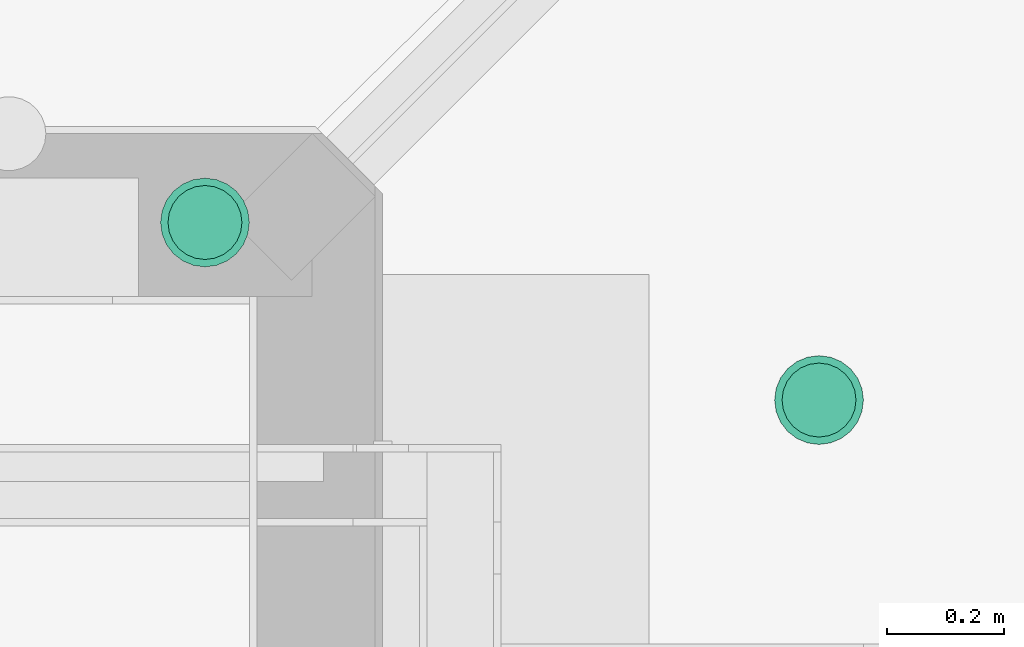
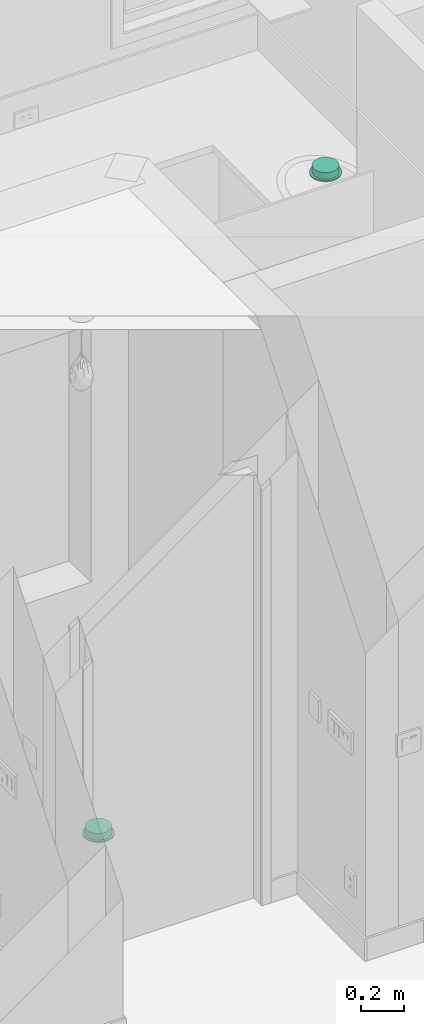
# One storey, part 45 of 81: 2 flow terminals.
"""IFC2X3 building model written with IfcOpenShell, lengths in feet."""

import ifcopenshell
import ifcopenshell.guid

model = None  # the IFC model being written
_history = None  # IfcOwnerHistory: only IFC2X3 demands one
_inside = {}  # id of a spatial element -> (the spatial element, [elements in it])
_under = {}  # id of a project, library or spatial element -> (it, [spatial elements below it])
_declared = {}  # id of a project -> (the project, [libraries it declares])
_typed = {}  # id of a type object -> (the type object, [elements of that type])
_made_of = {}  # id of a material, layer set ... -> (it, [elements and type objects made of it])


def new_model(schema):
    """Start an empty IFC model of exactly this schema.

    Asked for "IFC4X3", IfcOpenShell would pick the latest addendum, in which some entities
    have other attributes; the version numbers below select the first issue.
    IFC2X3 requires an IfcOwnerHistory on every rooted entity: one is made here for all.
    """
    global model, _history
    if schema == "IFC4X3":
        model = ifcopenshell.file(schema_version=(4, 3, 0, 0))
    else:
        model = ifcopenshell.file(schema=schema)
    _inside.clear()
    _under.clear()
    _declared.clear()
    _typed.clear()
    _made_of.clear()
    _history = None
    if model.schema == "IFC2X3":
        org = make("IfcOrganization", Name="unknown")
        user = make(
            "IfcPersonAndOrganization",
            ThePerson=make("IfcPerson", FamilyName="unknown"),
            TheOrganization=org,
        )
        app = make(
            "IfcApplication",
            ApplicationDeveloper=org,
            Version="unknown",
            ApplicationFullName="unknown",
            ApplicationIdentifier="unknown",
        )
        _history = make(
            "IfcOwnerHistory",
            OwningUser=user,
            OwningApplication=app,
            ChangeAction="ADDED",
            CreationDate=0,
        )
    return model


def make(cls, **values):
    """One entity of the class cls with the attributes given. An attribute that is None is left unset."""
    return model.create_entity(
        cls, **{name: value for name, value in values.items() if value is not None}
    )


def entity(cls, *values):
    """Any entity or typed value of the class cls, its attributes in the order of the schema. None: left unset."""
    e = model.create_entity(cls)
    for i, value in enumerate(values):
        if value is not None:
            e[i] = value
    return e


def rooted(cls, **values):
    """An entity with a GlobalId (a new one), such as an element, a storey or a relation."""
    return make(cls, GlobalId=ifcopenshell.guid.new(), OwnerHistory=_history, **values)


def si_unit(unit_type, name, prefix=None):
    """IfcSIUnit, for example si_unit("LENGTHUNIT", "METRE", prefix="MILLI")."""
    return make("IfcSIUnit", UnitType=unit_type, Prefix=prefix, Name=name)


def converted_unit(unit_type, name, factor, base, dimensions=None, offset=None):
    """IfcConversionBasedUnit, such as the inch: factor (a typed value) times the base unit."""
    return make(
        "IfcConversionBasedUnit"
        if offset is None
        else "IfcConversionBasedUnitWithOffset",
        ConversionOffset=offset,
        Dimensions=None
        if dimensions is None
        else entity("IfcDimensionalExponents", *dimensions),
        UnitType=unit_type,
        Name=name,
        ConversionFactor=make(
            "IfcMeasureWithUnit", ValueComponent=factor, UnitComponent=base
        ),
    )


def derived_unit(unit_type, elements):
    """IfcDerivedUnit: a product of units, each with its exponent."""
    return make(
        "IfcDerivedUnit",
        Elements=[
            make("IfcDerivedUnitElement", Unit=unit, Exponent=power)
            for unit, power in elements
        ],
        UnitType=unit_type,
    )


def assignment(units):
    """IfcUnitAssignment: the units of a project."""
    return None if units is None else make("IfcUnitAssignment", Units=units)


def point(xyz):
    """IfcCartesianPoint."""
    return None if xyz is None else make("IfcCartesianPoint", Coordinates=xyz)


def direction(xyz):
    """IfcDirection."""
    return None if xyz is None else make("IfcDirection", DirectionRatios=xyz)


def frame(location, z_axis=None, x_axis=None):
    """IfcAxis2Placement3D, a coordinate frame: its origin and axes. An axis left out is left unset."""
    return make(
        "IfcAxis2Placement3D",
        Location=point(location),
        Axis=direction(z_axis),
        RefDirection=direction(x_axis),
    )


def origin():
    """The frame at (0, 0, 0) with its axes left unset."""
    return frame((0.0, 0.0, 0.0))


def place(relative_to, where):
    """IfcLocalPlacement: puts the frame where relative to a parent placement (None: the world)."""
    return make(
        "IfcLocalPlacement", PlacementRelTo=relative_to, RelativePlacement=where
    )


def context(
    kind, dimensions, precision=None, world=None, true_north=None, identifier=None
):
    """IfcGeometricRepresentationContext, for example the 3D "Model" context."""
    return make(
        "IfcGeometricRepresentationContext",
        ContextIdentifier=identifier,
        ContextType=kind,
        CoordinateSpaceDimension=dimensions,
        Precision=precision,
        WorldCoordinateSystem=world,
        TrueNorth=true_north,
    )


def subcontext(parent, identifier, kind, view, scale=None):
    """IfcGeometricRepresentationSubContext, for example "Body" below "Model"."""
    return make(
        "IfcGeometricRepresentationSubContext",
        ContextIdentifier=identifier,
        ContextType=kind,
        ParentContext=parent,
        TargetScale=scale,
        TargetView=view,
    )


def project(units=None, contexts=None):
    """IfcProject with its units and contexts."""
    return rooted(
        "IfcProject",
        Name="project",
        RepresentationContexts=contexts,
        UnitsInContext=assignment(units),
    )


def spatial(cls, under=None, at=None, **own):
    """A site, building, storey or space (cls), placed at a placement, below another one or the project."""
    s = rooted(cls, ObjectPlacement=at, **own)
    if under is not None:
        _under.setdefault(under.id(), (under, []))[1].append(s)
    return s


def faces_of(points, faces, orient=None, outer=None):
    """IfcFace entities. A face is a list of loops; a loop is a list of indices into points, from 0.

    orient and outer hold one flag for each loop. By default every Orientation is true, the
    first loop of a face is its IfcFaceOuterBound and the others are IfcFaceBound.
    """
    made = []
    for i, loops in enumerate(faces):
        bounds = []
        for j, loop in enumerate(loops):
            is_outer = j == 0 if outer is None else outer[i][j]
            bounds.append(
                make(
                    "IfcFaceOuterBound" if is_outer else "IfcFaceBound",
                    Bound=make("IfcPolyLoop", Polygon=[points[k] for k in loop]),
                    Orientation=True if orient is None else orient[i][j],
                )
            )
        made.append(make("IfcFace", Bounds=bounds))
    return made


def faceted_brep(points, faces, orient=None, outer=None, voids=None):
    """IfcFacetedBrep: a solid bounded by flat faces; with voids (closed shells), ...WithVoids."""
    shared = [point(p) for p in points]
    hull = make("IfcClosedShell", CfsFaces=faces_of(shared, faces, orient, outer))
    if voids is None:
        return make("IfcFacetedBrep", Outer=hull)
    return make(
        "IfcFacetedBrepWithVoids",
        Outer=hull,
        Voids=[
            make(cls, CfsFaces=faces_of(shared, fs, o, b)) for cls, fs, o, b in voids
        ],
    )


def shape(context_of_items, identifier, shape_type, items):
    """IfcShapeRepresentation: the items that make up one representation, for example the "Body"."""
    return make(
        "IfcShapeRepresentation",
        ContextOfItems=context_of_items,
        RepresentationIdentifier=identifier,
        RepresentationType=shape_type,
        Items=items,
    )


def source(mapping_origin, context_of_items, identifier, shape_type, items):
    """IfcRepresentationMap: a shape defined once, which mapped items show again and again."""
    return make(
        "IfcRepresentationMap",
        MappingOrigin=mapping_origin,
        MappedRepresentation=shape(context_of_items, identifier, shape_type, items),
    )


def transform(
    local_origin,
    x_axis=None,
    y_axis=None,
    z_axis=None,
    scale=None,
    scale2=None,
    scale3=None,
    uniform=True,
):
    """IfcCartesianTransformationOperator3D, or its non-uniform kind. x_axis, y_axis, z_axis: its Axis1, 2, 3."""
    if uniform:
        return make(
            "IfcCartesianTransformationOperator3D",
            Axis1=direction(x_axis),
            Axis2=direction(y_axis),
            LocalOrigin=point(local_origin),
            Scale=scale,
            Axis3=direction(z_axis),
        )
    return make(
        "IfcCartesianTransformationOperator3DnonUniform",
        Axis1=direction(x_axis),
        Axis2=direction(y_axis),
        LocalOrigin=point(local_origin),
        Scale=scale,
        Axis3=direction(z_axis),
        Scale2=scale2,
        Scale3=scale3,
    )


def mapped(mapping_source, mapping_target):
    """IfcMappedItem: shows the shape of a source again, moved by a transform."""
    return make(
        "IfcMappedItem", MappingSource=mapping_source, MappingTarget=mapping_target
    )


def material(Name=None, Category=None):
    """IfcMaterial."""
    return make("IfcMaterial", Name=Name, Category=Category)


def material_list(materials):
    """IfcMaterialList."""
    return make("IfcMaterialList", Materials=materials)


def made_of(thing, what):
    """Note that an element or type object is made of a material, layer set ...; save() writes the relation."""
    if what is not None:
        _made_of.setdefault(what.id(), (what, []))[1].append(thing)
    return thing


def type_object(cls, material=None, **own):
    """A type object (cls), such as IfcWallType, which elements share."""
    return made_of(rooted(cls, **own), material)


def type_shapes(of_type, sources):
    """Give a type object the sources (RepresentationMaps) that its elements show as mapped items."""
    of_type.RepresentationMaps = sources


def element(
    cls,
    number,
    at=None,
    inside=None,
    cuts=None,
    type_object=None,
    material=None,
    context=None,
    identifier="Body",
    shape_type=None,
    held_by="IfcProductDefinitionShape",
    body=None,
    shapes=None,
    **own,
):
    """One element of the class cls, such as IfcWall. Its Tag is "e" and its number.

    at: its placement. inside: the storey or other place that contains it. cuts: it is an
    opening in that element (IfcRelVoidsElement). A single representation is given by context,
    identifier, shape_type and body (its items); several are given by shapes. held_by: the class
    of the entity that holds the representations. save() writes the other relations.
    """
    e = rooted(cls, Tag="e%d" % number, ObjectPlacement=at, **own)
    if body is not None:
        shapes = [shape(context, identifier, shape_type, body)]
    if shapes is not None:
        e.Representation = make(held_by, Representations=shapes)
    if inside is not None:
        _inside.setdefault(inside.id(), (inside, []))[1].append(e)
    if cuts is not None:
        rooted(
            "IfcRelVoidsElement", RelatingBuildingElement=cuts, RelatedOpeningElement=e
        )
    if type_object is not None:
        _typed.setdefault(type_object.id(), (type_object, []))[1].append(e)
    return made_of(e, material)


def aggregate(whole, parts):
    """IfcRelAggregates: a whole, such as a stair, and the parts it consists of."""
    return rooted("IfcRelAggregates", RelatingObject=whole, RelatedObjects=parts)


def save(model, path):
    """Write the relations noted so far, then the file.

    IfcRelAggregates (storeys below a building ...), IfcRelContainedInSpatialStructure (elements
    in a storey), IfcRelDefinesByType, IfcRelAssociatesMaterial and IfcRelDeclares: one each for
    every whole, place, type object, material and project.
    """
    for whole, parts in _under.values():
        aggregate(whole, parts)
    for where, things in _inside.values():
        rooted(
            "IfcRelContainedInSpatialStructure",
            RelatedElements=things,
            RelatingStructure=where,
        )
    for kind, things in _typed.values():
        rooted("IfcRelDefinesByType", RelatedObjects=things, RelatingType=kind)
    for what, things in _made_of.values():
        rooted("IfcRelAssociatesMaterial", RelatedObjects=things, RelatingMaterial=what)
    for by, libraries in _declared.values():
        rooted("IfcRelDeclares", RelatingContext=by, RelatedDefinitions=libraries)
    model.write(path)


model = new_model("IFC2X3")

# Units and contexts
model_context = context("Model", 3, precision=0.0001, world=origin(), true_north=direction((6.12303176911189e-17, 1.0)))
body_context = subcontext(model_context, "Body", "Model", "MODEL_VIEW")
ifc_project = project(units=[converted_unit("LENGTHUNIT", "FOOT", entity("IfcRatioMeasure", 0.3048), si_unit("LENGTHUNIT", "METRE"), dimensions=[1, 0, 0, 0, 0, 0, 0]), converted_unit("AREAUNIT", "SQUARE FOOT", entity("IfcRatioMeasure", 0.09290304), si_unit("AREAUNIT", "SQUARE_METRE"), dimensions=[2, 0, 0, 0, 0, 0, 0]), converted_unit("VOLUMEUNIT", "CUBIC FOOT", entity("IfcRatioMeasure", 0.028316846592), si_unit("VOLUMEUNIT", "CUBIC_METRE"), dimensions=[3, 0, 0, 0, 0, 0, 0]), converted_unit("PLANEANGLEUNIT", "DEGREE", entity("IfcRatioMeasure", 0.0174532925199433), si_unit("PLANEANGLEUNIT", "RADIAN"), dimensions=[0, 0, 0, 0, 0, 0, 0]), si_unit("MASSUNIT", "GRAM", prefix="KILO"), derived_unit("MASSDENSITYUNIT", [(si_unit("MASSUNIT", "GRAM", prefix="KILO"), 1), (si_unit("LENGTHUNIT", "METRE"), -3)]), derived_unit("MOMENTOFINERTIAUNIT", [(si_unit("LENGTHUNIT", "METRE"), 4)]), si_unit("TIMEUNIT", "SECOND"), si_unit("FREQUENCYUNIT", "HERTZ"), si_unit("THERMODYNAMICTEMPERATUREUNIT", "DEGREE_CELSIUS"), derived_unit("THERMALTRANSMITTANCEUNIT", [(si_unit("MASSUNIT", "GRAM", prefix="KILO"), 1), (si_unit("THERMODYNAMICTEMPERATUREUNIT", "KELVIN"), -1), (si_unit("TIMEUNIT", "SECOND"), -3)]), derived_unit("VOLUMETRICFLOWRATEUNIT", [(si_unit("LENGTHUNIT", "METRE"), 3), (si_unit("TIMEUNIT", "SECOND"), -1)]), si_unit("ELECTRICCURRENTUNIT", "AMPERE"), si_unit("ELECTRICVOLTAGEUNIT", "VOLT"), si_unit("POWERUNIT", "WATT"), si_unit("FORCEUNIT", "NEWTON"), si_unit("ILLUMINANCEUNIT", "LUX"), si_unit("LUMINOUSFLUXUNIT", "LUMEN"), si_unit("LUMINOUSINTENSITYUNIT", "CANDELA"), derived_unit("USERDEFINED", [(si_unit("MASSUNIT", "GRAM", prefix="KILO"), -1), (si_unit("LENGTHUNIT", "METRE"), -2), (si_unit("TIMEUNIT", "SECOND"), 3), (si_unit("LUMINOUSFLUXUNIT", "LUMEN"), 1)]), derived_unit("LINEARVELOCITYUNIT", [(si_unit("LENGTHUNIT", "METRE"), 1), (si_unit("TIMEUNIT", "SECOND"), -1)]), si_unit("PRESSUREUNIT", "PASCAL"), derived_unit("USERDEFINED", [(si_unit("LENGTHUNIT", "METRE"), -2), (si_unit("MASSUNIT", "GRAM", prefix="KILO"), 1), (si_unit("TIMEUNIT", "SECOND"), -2)]), derived_unit("LINEARFORCEUNIT", [(si_unit("MASSUNIT", "GRAM", prefix="KILO"), 1), (si_unit("LENGTHUNIT", "METRE"), 1), (si_unit("TIMEUNIT", "SECOND"), -2), (si_unit("LENGTHUNIT", "METRE"), -1)]), derived_unit("PLANARFORCEUNIT", [(si_unit("MASSUNIT", "GRAM", prefix="KILO"), 1), (si_unit("LENGTHUNIT", "METRE"), 1), (si_unit("TIMEUNIT", "SECOND"), -2), (si_unit("LENGTHUNIT", "METRE"), -2)])], contexts=[model_context])

# Site, building, storey
site_placement = place(None, origin())
site = spatial("IfcSite", under=ifc_project, at=site_placement, Name="Default", CompositionType="ELEMENT")
building_placement = place(site_placement, origin())
building = spatial("IfcBuilding", under=site, at=building_placement, CompositionType="ELEMENT")
storey_placement = place(building_placement, origin())
storey = spatial("IfcBuildingStorey", under=building, at=storey_placement, Name="First floor", CompositionType="ELEMENT", Elevation=0.0)

# Flow terminals
ifc_material_1 = material(Name="Default New Material")
ifc_material_2 = material(Name="Glass, White, High Luminance")
ifc_material_list_1 = material_list([ifc_material_1, ifc_material_2])
ifc_material_list_2 = material_list([ifc_material_1, ifc_material_2])
light_fixture_type = type_object("IfcLightFixtureType", Name="M_Recessed Lamp - Round - LED:Light 2", PredefinedType="NOTDEFINED", material=ifc_material_list_2)
shared_shape = source(origin(), body_context, "Body", "Brep", [
    faceted_brep([(-0.124999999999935, 0.216506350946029, 0.0208333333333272), (-0.176776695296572, 0.176776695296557, 0.0208333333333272), (-0.0833333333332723, 0.144337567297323, 0.0208333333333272), (-0.0431365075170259, 0.160987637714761, 0.0208333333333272), (-0.0647047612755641, 0.241481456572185, 0.0208333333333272), (-0.117851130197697, 0.117851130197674, 0.0208333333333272), (-0.216506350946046, 0.12499999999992, 0.0208333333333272), (-0.144337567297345, 0.0833333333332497, 0.0208333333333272), (-0.160987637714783, 0.0431365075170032, 0.0208333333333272), (-0.241481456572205, 0.0647047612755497, 0.0208333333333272), (-0.166666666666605, 0.0, 0.0208333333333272), (-0.249999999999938, 0.0, 0.0208333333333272), (-0.160987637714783, -0.0431365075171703, 0.0208333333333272), (-0.241481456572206, -0.0647047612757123, 0.0208333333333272), (-0.144337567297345, -0.0833333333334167, 0.0208333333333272), (-0.216506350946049, -0.125000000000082, 0.0208333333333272), (-0.117851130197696, -0.117851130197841, 0.0208333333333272), (-0.176776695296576, -0.176776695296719, 0.0208333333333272), (-0.0833333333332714, -0.14433756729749, 0.0208333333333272), (-0.12499999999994, -0.216506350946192, 0.0208333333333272), (-0.0431365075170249, -0.160987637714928, 0.0208333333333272), (-0.0647047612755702, -0.24148145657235, 0.0208333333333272), (0.0, -0.16666666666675, 0.0208333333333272), (0.0, -0.250000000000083, 0.0208333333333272), (0.0431365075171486, -0.160987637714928, 0.0208333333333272), (0.0647047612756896, -0.241481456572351, 0.0208333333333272), (0.0833333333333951, -0.144337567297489, 0.0208333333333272), (0.12500000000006, -0.216506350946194, 0.0208333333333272), (0.11785113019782, -0.117851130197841, 0.0208333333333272), (0.176776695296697, -0.176776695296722, 0.0208333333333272), (0.144337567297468, -0.0833333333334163, 0.0208333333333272), (0.21650635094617, -0.125000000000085, 0.0208333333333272), (0.241481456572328, -0.0647047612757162, 0.0208333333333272), (0.160987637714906, -0.0431365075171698, 0.0208333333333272), (0.250000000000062, 0.0, 0.0208333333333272), (0.166666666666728, 0.0, 0.0208333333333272), (0.241481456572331, 0.06470476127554, 0.0208333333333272), (0.160987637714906, 0.0431365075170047, 0.0208333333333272), (0.216506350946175, 0.124999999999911, 0.0208333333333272), (0.144337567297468, 0.0833333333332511, 0.0208333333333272), (0.176776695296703, 0.176776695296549, 0.0208333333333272), (0.117851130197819, 0.117851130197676, 0.0208333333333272), (0.125000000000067, 0.216506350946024, 0.0208333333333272), (0.0833333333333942, 0.144337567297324, 0.0208333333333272), (0.0647047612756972, 0.241481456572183, 0.0208333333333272), (0.0431365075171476, 0.160987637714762, 0.0208333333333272), (0.0, 0.249999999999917, 0.0208333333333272), (0.0, 0.166666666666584, 0.0208333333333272), (-0.12499999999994, -0.216506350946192, 0.0), (-0.176776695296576, -0.176776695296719, 0.0), (-0.0833333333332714, -0.14433756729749, 0.0), (-0.0431365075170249, -0.160987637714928, 0.0), (-0.0647047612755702, -0.24148145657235, 0.0), (-0.117851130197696, -0.117851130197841, 0.0), (-0.216506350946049, -0.125000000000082, 0.0), (-0.144337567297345, -0.0833333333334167, 0.0), (-0.160987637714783, -0.0431365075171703, 0.0), (-0.241481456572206, -0.0647047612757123, 0.0), (-0.166666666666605, 0.0, 0.0), (-0.249999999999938, 0.0, 0.0), (-0.160987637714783, 0.0431365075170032, 0.0), (-0.241481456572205, 0.0647047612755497, 0.0), (-0.144337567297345, 0.0833333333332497, 0.0), (-0.216506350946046, 0.12499999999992, 0.0), (-0.117851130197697, 0.117851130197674, 0.0), (-0.176776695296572, 0.176776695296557, 0.0), (-0.0833333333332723, 0.144337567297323, 0.0), (-0.124999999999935, 0.216506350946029, 0.0), (-0.0431365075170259, 0.160987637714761, 0.0), (-0.0647047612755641, 0.241481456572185, 0.0), (0.0, 0.166666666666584, 0.0), (0.0, 0.249999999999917, 0.0), (0.0431365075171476, 0.160987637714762, 0.0), (0.0647047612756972, 0.241481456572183, 0.0), (0.0833333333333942, 0.144337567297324, 0.0), (0.125000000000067, 0.216506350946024, 0.0), (0.117851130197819, 0.117851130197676, 0.0), (0.176776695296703, 0.176776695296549, 0.0), (0.144337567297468, 0.0833333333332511, 0.0), (0.216506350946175, 0.124999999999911, 0.0), (0.241481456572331, 0.06470476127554, 0.0), (0.160987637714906, 0.0431365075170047, 0.0), (0.250000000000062, 0.0, 0.0), (0.166666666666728, 0.0, 0.0), (0.241481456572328, -0.0647047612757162, 0.0), (0.160987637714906, -0.0431365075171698, 0.0), (0.21650635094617, -0.125000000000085, 0.0), (0.144337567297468, -0.0833333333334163, 0.0), (0.176776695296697, -0.176776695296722, 0.0), (0.11785113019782, -0.117851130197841, 0.0), (0.12500000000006, -0.216506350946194, 0.0), (0.0833333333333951, -0.144337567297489, 0.0), (0.0647047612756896, -0.241481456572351, 0.0), (0.0431365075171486, -0.160987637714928, 0.0), (0.0, -0.250000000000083, 0.0), (0.0, -0.16666666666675, 0.0)], [[[0, 1, 2]], [[0, 2, 3]], [[3, 4, 0]], [[2, 1, 5]], [[6, 5, 1]], [[7, 5, 6]], [[8, 7, 6]], [[8, 6, 9]], [[8, 9, 10]], [[10, 9, 11]], [[12, 10, 11]], [[12, 11, 13]], [[14, 12, 13]], [[14, 13, 15]], [[16, 14, 15]], [[15, 17, 16]], [[17, 18, 16]], [[18, 17, 19]], [[18, 19, 20]], [[21, 20, 19]], [[20, 21, 22]], [[22, 21, 23]], [[23, 24, 22]], [[24, 23, 25]], [[24, 25, 26]], [[27, 26, 25]], [[27, 28, 26]], [[27, 29, 28]], [[30, 28, 29]], [[31, 30, 29]], [[32, 30, 31]], [[33, 30, 32]], [[33, 32, 34]], [[34, 35, 33]], [[36, 35, 34]], [[36, 37, 35]], [[37, 36, 38]], [[39, 37, 38]], [[39, 38, 40]], [[39, 40, 41]], [[40, 42, 41]], [[41, 42, 43]], [[43, 42, 44]], [[44, 45, 43]], [[46, 45, 44]], [[4, 47, 46]], [[45, 46, 47]], [[4, 3, 47]], [[48, 49, 50]], [[48, 50, 51]], [[51, 52, 48]], [[50, 49, 53]], [[54, 53, 49]], [[55, 53, 54]], [[56, 55, 54]], [[56, 54, 57]], [[56, 57, 58]], [[58, 57, 59]], [[60, 58, 59]], [[60, 59, 61]], [[62, 60, 61]], [[62, 61, 63]], [[64, 62, 63]], [[63, 65, 64]], [[65, 66, 64]], [[66, 65, 67]], [[66, 67, 68]], [[69, 68, 67]], [[68, 69, 70]], [[70, 69, 71]], [[71, 72, 70]], [[72, 71, 73]], [[72, 73, 74]], [[75, 74, 73]], [[75, 76, 74]], [[75, 77, 76]], [[78, 76, 77]], [[79, 78, 77]], [[80, 78, 79]], [[81, 78, 80]], [[81, 80, 82]], [[82, 83, 81]], [[84, 83, 82]], [[84, 85, 83]], [[85, 84, 86]], [[87, 85, 86]], [[87, 86, 88]], [[87, 88, 89]], [[88, 90, 89]], [[89, 90, 91]], [[91, 90, 92]], [[92, 93, 91]], [[94, 93, 92]], [[52, 95, 94]], [[93, 94, 95]], [[52, 51, 95]], [[10, 58, 60, 8]], [[8, 60, 62, 7]], [[2, 5, 64, 66]], [[62, 64, 5, 7]], [[3, 2, 66, 68]], [[70, 47, 3, 68]], [[45, 72, 74, 43]], [[43, 74, 76, 41]], [[37, 39, 78, 81]], [[76, 78, 39, 41]], [[35, 37, 81, 83]], [[45, 47, 70, 72]], [[35, 83, 85, 33]], [[33, 85, 87, 30]], [[26, 28, 89, 91]], [[87, 89, 28, 30]], [[24, 26, 91, 93]], [[95, 22, 24, 93]], [[20, 51, 50, 18]], [[18, 50, 53, 16]], [[12, 14, 55, 56]], [[53, 55, 14, 16]], [[10, 12, 56, 58]], [[20, 22, 95, 51]], [[57, 13, 11, 59]], [[54, 15, 13, 57]], [[19, 17, 49, 48]], [[54, 49, 17, 15]], [[21, 19, 48, 52]], [[23, 21, 52, 94]], [[92, 25, 23, 94]], [[90, 27, 25, 92]], [[31, 29, 88, 86]], [[90, 88, 29, 27]], [[32, 31, 86, 84]], [[34, 32, 84, 82]], [[80, 36, 34, 82]], [[79, 38, 36, 80]], [[42, 40, 77, 75]], [[79, 77, 40, 38]], [[44, 42, 75, 73]], [[46, 44, 73, 71]], [[69, 4, 46, 71]], [[67, 0, 4, 69]], [[6, 1, 65, 63]], [[67, 65, 1, 0]], [[9, 6, 63, 61]], [[11, 9, 61, 59]]]),
    faceted_brep([(0.0431365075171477, -0.160987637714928, 0.0208333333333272), (0.0833333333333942, -0.14433756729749, 0.0208333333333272), (0.117851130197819, -0.117851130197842, 0.0208333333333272), (0.144337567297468, -0.0833333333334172, 0.0208333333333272), (0.160987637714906, -0.0431365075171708, 0.0208333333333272), (0.166666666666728, 0.0, 0.0208333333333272), (0.160987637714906, 0.0431365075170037, 0.0208333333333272), (0.144337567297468, 0.0833333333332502, 0.0208333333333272), (0.11785113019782, 0.117851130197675, 0.0208333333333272), (0.0833333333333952, 0.144337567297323, 0.0208333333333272), (0.0431365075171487, 0.160987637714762, 0.0208333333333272), (0.0, 0.166666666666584, 0.0208333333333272), (-0.0431365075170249, 0.160987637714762, 0.0208333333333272), (-0.0833333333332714, 0.144337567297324, 0.0208333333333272), (-0.117851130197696, 0.117851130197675, 0.0208333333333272), (-0.144337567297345, 0.0833333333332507, 0.0208333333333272), (-0.160987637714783, 0.0431365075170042, 0.0208333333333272), (-0.166666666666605, 0.0, 0.0208333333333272), (-0.160987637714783, -0.0431365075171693, 0.0208333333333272), (-0.144337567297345, -0.0833333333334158, 0.0208333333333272), (-0.117851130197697, -0.117851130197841, 0.0208333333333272), (-0.0833333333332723, -0.144337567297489, 0.0208333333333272), (-0.0431365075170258, -0.160987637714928, 0.0208333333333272), (0.0, -0.16666666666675, 0.0208333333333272), (0.0431365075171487, 0.160987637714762, 0.0), (0.0833333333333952, 0.144337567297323, 0.0), (0.11785113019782, 0.117851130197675, 0.0), (0.144337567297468, 0.0833333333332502, 0.0), (0.160987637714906, 0.0431365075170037, 0.0), (0.166666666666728, 0.0, 0.0), (0.160987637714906, -0.0431365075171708, 0.0), (0.144337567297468, -0.0833333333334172, 0.0), (0.117851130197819, -0.117851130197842, 0.0), (0.0833333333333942, -0.14433756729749, 0.0), (0.0431365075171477, -0.160987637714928, 0.0), (0.0, -0.16666666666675, 0.0), (-0.0431365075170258, -0.160987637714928, 0.0), (-0.0833333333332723, -0.144337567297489, 0.0), (-0.117851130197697, -0.117851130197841, 0.0), (-0.144337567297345, -0.0833333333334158, 0.0), (-0.160987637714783, -0.0431365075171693, 0.0), (-0.166666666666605, 0.0, 0.0), (-0.160987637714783, 0.0431365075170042, 0.0), (-0.144337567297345, 0.0833333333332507, 0.0), (-0.117851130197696, 0.117851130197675, 0.0), (-0.0833333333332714, 0.144337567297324, 0.0), (-0.0431365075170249, 0.160987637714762, 0.0), (0.0, 0.166666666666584, 0.0)], [[[0, 1, 2, 3, 4, 5, 6, 7, 8, 9, 10, 11, 12, 13, 14, 15, 16, 17, 18, 19, 20, 21, 22, 23]], [[24, 25, 26, 27, 28, 29, 30, 31, 32, 33, 34, 35, 36, 37, 38, 39, 40, 41, 42, 43, 44, 45, 46, 47]], [[40, 18, 17, 41]], [[39, 19, 18, 40]], [[21, 20, 38, 37]], [[39, 38, 20, 19]], [[22, 21, 37, 36]], [[23, 22, 36, 35]], [[34, 0, 23, 35]], [[33, 1, 0, 34]], [[3, 2, 32, 31]], [[33, 32, 2, 1]], [[4, 3, 31, 30]], [[5, 4, 30, 29]], [[28, 6, 5, 29]], [[27, 7, 6, 28]], [[9, 8, 26, 25]], [[27, 26, 8, 7]], [[10, 9, 25, 24]], [[11, 10, 24, 47]], [[46, 12, 11, 47]], [[45, 13, 12, 46]], [[15, 14, 44, 43]], [[45, 44, 14, 13]], [[16, 15, 43, 42]], [[17, 16, 42, 41]]]),
    faceted_brep([(0.0, -0.16666666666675, -0.104166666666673), (0.0431365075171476, -0.160987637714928, -0.104166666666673), (0.0833333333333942, -0.14433756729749, -0.104166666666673), (0.117851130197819, -0.117851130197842, -0.104166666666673), (0.144337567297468, -0.0833333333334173, -0.104166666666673), (0.160987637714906, -0.0431365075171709, -0.104166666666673), (0.166666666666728, 0.0, -0.104166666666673), (0.160987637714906, 0.0431365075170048, -0.104166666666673), (0.144337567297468, 0.0833333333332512, -0.104166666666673), (0.117851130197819, 0.117851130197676, -0.104166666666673), (0.0833333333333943, 0.144337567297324, -0.104166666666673), (0.0431365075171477, 0.160987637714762, -0.104166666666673), (0.0, 0.166666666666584, -0.104166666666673), (-0.0431365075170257, 0.160987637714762, -0.104166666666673), (-0.0833333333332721, 0.144337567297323, -0.104166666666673), (-0.117851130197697, 0.117851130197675, -0.104166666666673), (-0.144337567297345, 0.0833333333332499, -0.104166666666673), (-0.160987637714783, 0.0431365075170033, -0.104166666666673), (-0.166666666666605, 0.0, -0.104166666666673), (-0.160987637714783, -0.0431365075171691, -0.104166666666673), (-0.144337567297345, -0.0833333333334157, -0.104166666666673), (-0.117851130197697, -0.11785113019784, -0.104166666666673), (-0.0833333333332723, -0.144337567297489, -0.104166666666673), (-0.0431365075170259, -0.160987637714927, -0.104166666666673), (0.0, 0.20833333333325, -0.125000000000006), (0.0539206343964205, 0.201234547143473, -0.125000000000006), (0.104166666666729, 0.180421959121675, -0.125000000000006), (0.147313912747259, 0.147313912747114, -0.125000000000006), (0.18042195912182, 0.104166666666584, -0.125000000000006), (0.201234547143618, 0.0539206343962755, -0.125000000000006), (0.208333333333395, 0.0, -0.125000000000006), (0.201234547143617, -0.0539206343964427, -0.125000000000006), (0.180421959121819, -0.104166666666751, -0.125000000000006), (0.147313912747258, -0.147313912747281, -0.125000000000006), (0.104166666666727, -0.180421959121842, -0.125000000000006), (0.0539206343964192, -0.201234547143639, -0.125000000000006), (0.0, -0.208333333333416, -0.125000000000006), (-0.0539206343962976, -0.201234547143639, -0.125000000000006), (-0.104166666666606, -0.180421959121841, -0.125000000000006), (-0.147313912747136, -0.14731391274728, -0.125000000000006), (-0.180421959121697, -0.104166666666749, -0.125000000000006), (-0.201234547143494, -0.0539206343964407, -0.125000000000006), (-0.208333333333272, 0.0, -0.125000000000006), (-0.201234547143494, 0.0539206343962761, -0.125000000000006), (-0.180421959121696, 0.104166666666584, -0.125000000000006), (-0.147313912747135, 0.147313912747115, -0.125000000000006), (-0.104166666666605, 0.180421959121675, -0.125000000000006), (-0.0539206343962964, 0.201234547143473, -0.125000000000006), (-0.201234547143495, -0.0539206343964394, -0.104166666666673), (-0.201234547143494, -0.0539206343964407, 0.0), (-0.208333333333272, 0.0, 0.0), (-0.208333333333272, 0.0, -0.104166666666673), (-0.180421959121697, -0.104166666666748, -0.104166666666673), (-0.180421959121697, -0.104166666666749, 0.0), (-0.104166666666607, -0.18042195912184, -0.104166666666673), (-0.104166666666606, -0.180421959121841, 0.0), (-0.147313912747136, -0.14731391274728, 0.0), (-0.147313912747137, -0.147313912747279, -0.104166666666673), (-0.0539206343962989, -0.201234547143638, -0.104166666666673), (-0.0539206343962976, -0.201234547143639, 0.0), (0.0, -0.208333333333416, -0.104166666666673), (0.0, -0.208333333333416, 0.0), (0.053920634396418, -0.201234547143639, -0.104166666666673), (0.0539206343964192, -0.201234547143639, 0.0), (0.104166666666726, -0.180421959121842, -0.104166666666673), (0.104166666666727, -0.180421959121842, 0.0), (0.180421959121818, -0.104166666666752, -0.104166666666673), (0.180421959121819, -0.104166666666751, 0.0), (0.147313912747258, -0.147313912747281, 0.0), (0.147313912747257, -0.147313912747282, -0.104166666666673), (0.201234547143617, -0.0539206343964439, -0.104166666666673), (0.201234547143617, -0.0539206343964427, 0.0), (0.208333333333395, 0.0, -0.104166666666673), (0.208333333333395, 0.0, 0.0), (0.201234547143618, 0.0539206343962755, -0.104166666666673), (0.201234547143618, 0.0539206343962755, 0.0), (0.18042195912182, 0.104166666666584, -0.104166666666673), (0.18042195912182, 0.104166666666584, 0.0), (0.104166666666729, 0.180421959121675, -0.104166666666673), (0.104166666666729, 0.180421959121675, 0.0), (0.147313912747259, 0.147313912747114, 0.0), (0.147313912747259, 0.147313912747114, -0.104166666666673), (0.0539206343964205, 0.201234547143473, -0.104166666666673), (0.0539206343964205, 0.201234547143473, 0.0), (0.0, 0.20833333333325, -0.104166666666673), (0.0, 0.20833333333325, 0.0), (-0.0539206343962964, 0.201234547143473, -0.104166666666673), (-0.0539206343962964, 0.201234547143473, 0.0), (-0.104166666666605, 0.180421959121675, -0.104166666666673), (-0.104166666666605, 0.180421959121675, 0.0), (-0.180421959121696, 0.104166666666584, -0.104166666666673), (-0.180421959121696, 0.104166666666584, 0.0), (-0.147313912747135, 0.147313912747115, 0.0), (-0.147313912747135, 0.147313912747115, -0.104166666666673), (-0.201234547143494, 0.0539206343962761, -0.104166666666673), (-0.201234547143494, 0.0539206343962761, 0.0), (-0.0833333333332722, 0.144337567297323, 0.0), (-0.0431365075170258, 0.160987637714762, 0.0), (-0.117851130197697, 0.117851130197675, 0.0), (-0.144337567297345, 0.0833333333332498, 0.0), (-0.160987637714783, 0.0431365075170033, 0.0), (-0.166666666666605, 0.0, 0.0), (-0.160987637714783, -0.0431365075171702, 0.0), (-0.144337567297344, -0.0833333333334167, 0.0), (-0.117851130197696, -0.117851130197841, 0.0), (-0.0833333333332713, -0.14433756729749, 0.0), (-0.0431365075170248, -0.160987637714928, 0.0), (0.0, -0.16666666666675, 0.0), (0.0431365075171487, -0.160987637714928, 0.0), (0.0833333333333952, -0.144337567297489, 0.0), (0.11785113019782, -0.117851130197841, 0.0), (0.144337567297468, -0.0833333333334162, 0.0), (0.160987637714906, -0.0431365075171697, 0.0), (0.166666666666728, 0.0, 0.0), (0.160987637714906, 0.0431365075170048, 0.0), (0.144337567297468, 0.0833333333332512, 0.0), (0.117851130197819, 0.117851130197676, 0.0), (0.0833333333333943, 0.144337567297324, 0.0), (0.0431365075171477, 0.160987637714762, 0.0), (0.0, 0.166666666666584, 0.0)], [[[0, 1, 2, 3, 4, 5, 6, 7, 8, 9, 10, 11, 12, 13, 14, 15, 16, 17, 18, 19, 20, 21, 22, 23]], [[24, 25, 26, 27, 28, 29, 30, 31, 32, 33, 34, 35, 36, 37, 38, 39, 40, 41, 42, 43, 44, 45, 46, 47]], [[41, 48, 49, 50, 51, 42]], [[40, 52, 53, 49, 48, 41]], [[54, 55, 56, 57, 39, 38]], [[40, 39, 57, 56, 53, 52]], [[58, 59, 55, 54, 38, 37]], [[60, 61, 59, 58, 37, 36]], [[35, 62, 63, 61, 60, 36]], [[34, 64, 65, 63, 62, 35]], [[66, 67, 68, 69, 33, 32]], [[34, 33, 69, 68, 65, 64]], [[70, 71, 67, 66, 32, 31]], [[72, 73, 71, 70, 31, 30]], [[29, 74, 75, 73, 72, 30]], [[28, 76, 77, 75, 74, 29]], [[78, 79, 80, 81, 27, 26]], [[28, 27, 81, 80, 77, 76]], [[82, 83, 79, 78, 26, 25]], [[84, 85, 83, 82, 25, 24]], [[47, 86, 87, 85, 84, 24]], [[46, 88, 89, 87, 86, 47]], [[90, 91, 92, 93, 45, 44]], [[46, 45, 93, 92, 89, 88]], [[94, 95, 91, 90, 44, 43]], [[51, 50, 95, 94, 43, 42]], [[89, 92, 96]], [[89, 96, 97]], [[97, 87, 89]], [[96, 92, 98]], [[91, 98, 92]], [[99, 98, 91]], [[100, 99, 91]], [[100, 91, 95]], [[100, 95, 101]], [[101, 95, 50]], [[102, 101, 50]], [[102, 50, 49]], [[103, 102, 49]], [[103, 49, 53]], [[104, 103, 53]], [[53, 56, 104]], [[56, 105, 104]], [[105, 56, 55]], [[105, 55, 106]], [[59, 106, 55]], [[106, 59, 107]], [[107, 59, 61]], [[61, 108, 107]], [[108, 61, 63]], [[108, 63, 109]], [[65, 109, 63]], [[65, 110, 109]], [[65, 68, 110]], [[111, 110, 68]], [[67, 111, 68]], [[71, 111, 67]], [[112, 111, 71]], [[112, 71, 73]], [[73, 113, 112]], [[75, 113, 73]], [[75, 114, 113]], [[114, 75, 77]], [[115, 114, 77]], [[115, 77, 80]], [[115, 80, 116]], [[80, 79, 116]], [[116, 79, 117]], [[117, 79, 83]], [[83, 118, 117]], [[85, 118, 83]], [[87, 119, 85]], [[85, 119, 118]], [[87, 97, 119]], [[113, 6, 5, 112]], [[112, 5, 4, 111]], [[109, 110, 3, 2]], [[4, 3, 110, 111]], [[108, 109, 2, 1]], [[0, 107, 108, 1]], [[104, 105, 22, 21]], [[23, 22, 105, 106]], [[102, 103, 20, 19]], [[104, 21, 20, 103]], [[102, 19, 18, 101]], [[0, 23, 106, 107]], [[101, 18, 17, 100]], [[100, 17, 16, 99]], [[96, 98, 15, 14]], [[16, 15, 98, 99]], [[97, 96, 14, 13]], [[12, 119, 97, 13]], [[118, 11, 10, 117]], [[117, 10, 9, 116]], [[114, 115, 8, 7]], [[9, 8, 115, 116]], [[113, 114, 7, 6]], [[118, 119, 12, 11]]]),
])
type_shapes(light_fixture_type, [shared_shape])
flow_terminal_1_placement = place(storey_placement, frame((-1.58333333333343, 36.8333333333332, 8.41666666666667), z_axis=(0.0, 0.0, -1.0), x_axis=(1.0, 0.0, 0.0)))
element("IfcFlowTerminal", 1, at=flow_terminal_1_placement, inside=storey, type_object=light_fixture_type, material=ifc_material_list_1, Name="M_Recessed Lamp - Round - LED:Light 2", ObjectType="M_Recessed Lamp - Round - LED:Light 2", context=body_context, shape_type="MappedRepresentation", body=[
    mapped(shared_shape, transform((0.0, 0.0, 0.0), scale=1.0)),
])
ifc_material_list_3 = material_list([ifc_material_1, ifc_material_2])
flow_terminal_2_placement = place(storey_placement, frame((1.87499999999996, 35.8333333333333, 20.2291666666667), z_axis=(0.0, 0.0, -1.0), x_axis=(1.0, 0.0, 0.0)))
element("IfcFlowTerminal", 2, at=flow_terminal_2_placement, inside=storey, type_object=light_fixture_type, material=ifc_material_list_3, Name="M_Recessed Lamp - Round - LED:Light 2", ObjectType="M_Recessed Lamp - Round - LED:Light 2", context=body_context, shape_type="MappedRepresentation", body=[
    mapped(shared_shape, transform((0.0, 0.0, 0.0), scale=1.0)),
])

save(model, "model.ifc")
